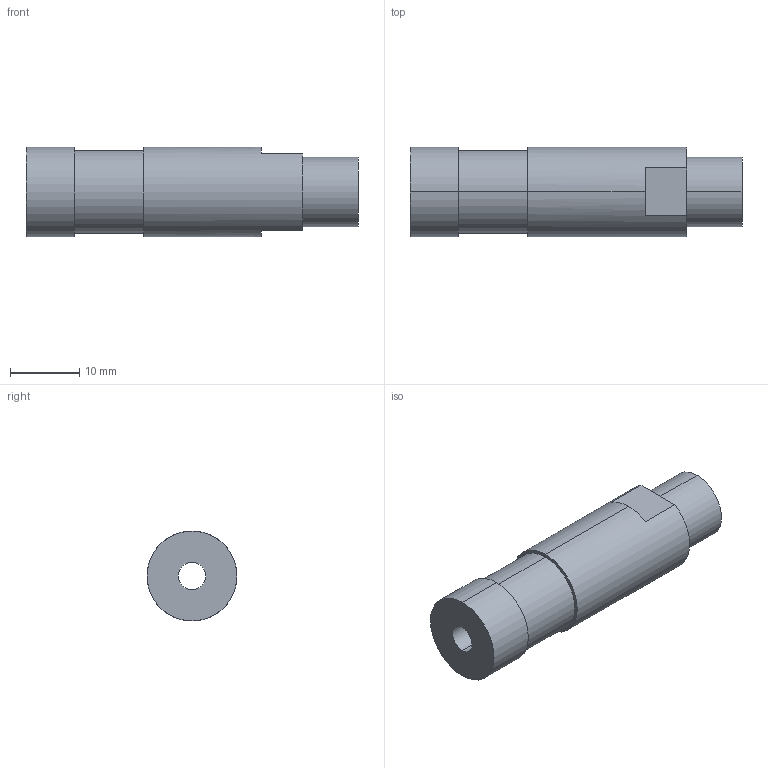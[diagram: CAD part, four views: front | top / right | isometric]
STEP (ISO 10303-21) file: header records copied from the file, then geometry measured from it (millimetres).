
FILE_DESCRIPTION (( 'STEP AP203' ), '1' );
FILE_NAME ('ER-AF10.STEP', '2005-09-06T02:34:14', ( '' ), ( '' ), 'SwSTEP 2.0', 'SolidWorks 2004073', '' );
FILE_SCHEMA (( 'CONFIG_CONTROL_DESIGN' ));
Length unit declared in the file: millimetre
Products named in the file (1): ER-AF10
Bounding box: 48 x 13 x 13 mm (x, y, z)
Volume: 5081.7 mm3; surface area: 2731.8 mm2
Topology: 1 solids, 1 shells, 19 faces, 42 edges, 28 vertices
Faces by surface type: cylinder 10, plane 9
Entity records: 621 total; most frequent: DIRECTION 106, CARTESIAN_POINT 90, ORIENTED_EDGE 84, AXIS2_PLACEMENT_3D 44, EDGE_CURVE 42, VERTEX_POINT 28, EDGE_LOOP 24, CIRCLE 24
